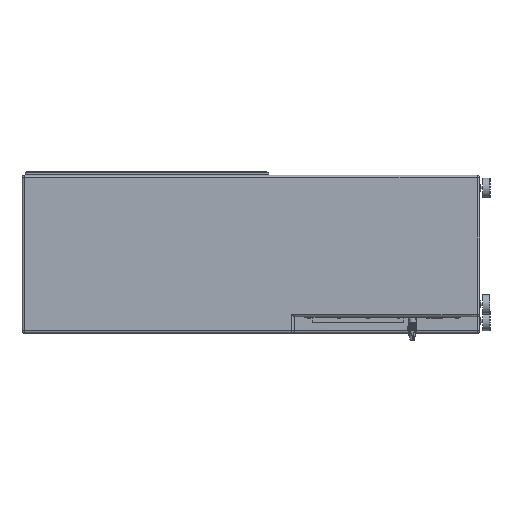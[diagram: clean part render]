
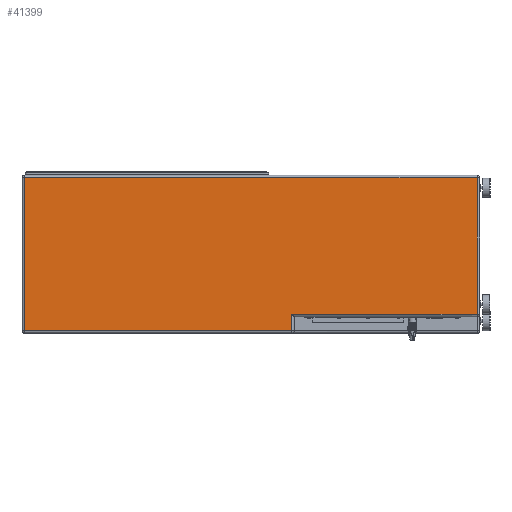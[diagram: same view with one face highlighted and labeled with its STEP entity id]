
A CAD part, left-side view. The second image highlights one B-rep face of the part: STEP entity #41399.
In plain terms, the highlighted planar face has unit normal (-1, 0, 0).
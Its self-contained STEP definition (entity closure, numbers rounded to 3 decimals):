
#4706=FACE_OUTER_BOUND('',#7199,.T.);
#7199=EDGE_LOOP('',(#29334,#29335,#29336,#29337,#29338,#29339));
#9783=LINE('',#58481,#13433);
#9785=LINE('',#58488,#13435);
#9792=LINE('',#58512,#13442);
#10050=LINE('',#59395,#13700);
#10066=LINE('',#59478,#13716);
#10067=LINE('',#59479,#13717);
#13433=VECTOR('',#48114,10.);
#13435=VECTOR('',#48124,10.);
#13442=VECTOR('',#48155,10.);
#13700=VECTOR('',#49107,1000.);
#13716=VECTOR('',#49175,1000.);
#13717=VECTOR('',#49176,1000.);
#17066=VERTEX_POINT('',#58479);
#17067=VERTEX_POINT('',#58480);
#17068=VERTEX_POINT('',#58486);
#17073=VERTEX_POINT('',#58511);
#17350=VERTEX_POINT('',#59392);
#17351=VERTEX_POINT('',#59394);
#21424=EDGE_CURVE('',#17066,#17067,#9783,.T.);
#21429=EDGE_CURVE('',#17068,#17066,#9785,.T.);
#21440=EDGE_CURVE('',#17073,#17067,#9792,.T.);
#21875=EDGE_CURVE('',#17351,#17350,#10050,.T.);
#21904=EDGE_CURVE('',#17068,#17351,#10066,.T.);
#21905=EDGE_CURVE('',#17350,#17073,#10067,.T.);
#29334=ORIENTED_EDGE('',*,*,#21429,.F.);
#29335=ORIENTED_EDGE('',*,*,#21904,.T.);
#29336=ORIENTED_EDGE('',*,*,#21875,.T.);
#29337=ORIENTED_EDGE('',*,*,#21905,.T.);
#29338=ORIENTED_EDGE('',*,*,#21440,.T.);
#29339=ORIENTED_EDGE('',*,*,#21424,.F.);
#39974=PLANE('',#44278);
#41399=ADVANCED_FACE('',(#4706),#39974,.T.);
#44278=AXIS2_PLACEMENT_3D('',#59477,#49173,#49174);
#48114=DIRECTION('',(0.,0.,-1.));
#48124=DIRECTION('',(0.,1.,0.));
#48155=DIRECTION('',(0.,-1.,0.));
#49107=DIRECTION('',(0.,1.,0.));
#49173=DIRECTION('center_axis',(-1.,0.,0.));
#49174=DIRECTION('ref_axis',(0.,0.,1.));
#49175=DIRECTION('',(0.,0.,1.));
#49176=DIRECTION('',(0.,0.,-1.));
#58479=CARTESIAN_POINT('',(-265.,-98.,-144.));
#58480=CARTESIAN_POINT('',(-265.,-98.,-184.));
#58481=CARTESIAN_POINT('',(-265.,-98.,-95.));
#58486=CARTESIAN_POINT('',(-265.,-544.,-144.));
#58488=CARTESIAN_POINT('',(-265.,-1.5,-144.));
#58511=CARTESIAN_POINT('',(-265.,544.,-184.));
#58512=CARTESIAN_POINT('',(-265.,-538.,-184.));
#59392=CARTESIAN_POINT('',(-265.,544.,184.));
#59394=CARTESIAN_POINT('',(-265.,-544.,184.));
#59395=CARTESIAN_POINT('',(-265.,-532.,184.));
#59477=CARTESIAN_POINT('Origin',(-265.,0.,0.));
#59478=CARTESIAN_POINT('',(-265.,-544.,-190.));
#59479=CARTESIAN_POINT('',(-265.,544.,-190.));
